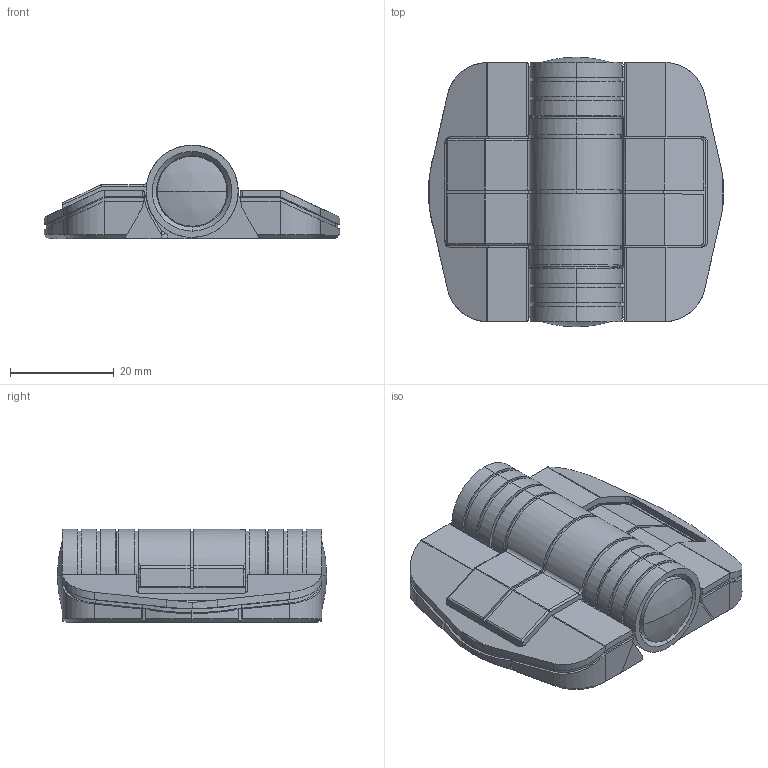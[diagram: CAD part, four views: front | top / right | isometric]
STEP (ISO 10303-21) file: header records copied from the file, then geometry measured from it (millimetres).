
FILE_DESCRIPTION (( 'STEP AP214' ), '1' );
FILE_NAME ('C6DEFAU1028518109967.step', '2005-10-28T09:18:29', ( 'SysAdmin' ), ( 'SolidWorks' ), 'SwSTEP 2.0', 'SolidWorks 2005254', '' );
FILE_SCHEMA (( 'AUTOMOTIVE_DESIGN' ));
Length unit declared in the file: inch
Products named in the file (9): SW3dPS-C6-28_STANDARD STEEL BALL8; SW3dPS-C6-28_End Plug10; SW3dPS-C6-28_RETAINING_TAB10; C6DEFAU1028518109967; SW3dPS-C6-28_Cover16; SW3dPS-C6-28_DETENT_TUBE1; SW3dPS-C6-28_C6_DOUBLE_LEAF_CLF10; SW3dPS-C6-28_C6_SINGLE_LEAF_CLF10; SW3dPS-C6-28_HINGE_SUB_ASSEMBLY9
Assembly tree (11 placements, depth 3):
  C6DEFAU1028518109967
    SW3dPS-C6-28_Cover16  x2
    SW3dPS-C6-28_HINGE_SUB_ASSEMBLY9
      SW3dPS-C6-28_End Plug10  x2
      SW3dPS-C6-28_C6_DOUBLE_LEAF_CLF10
      SW3dPS-C6-28_DETENT_TUBE1
      SW3dPS-C6-28_C6_SINGLE_LEAF_CLF10
      SW3dPS-C6-28_STANDARD STEEL BALL8  x2
      SW3dPS-C6-28_RETAINING_TAB10
Bounding box: 57.04 x 52.02 x 18.05 mm (x, y, z)
Volume: 17164 mm3; surface area: 22325.1 mm2
Topology: 10 solids, 10 shells, 854 faces, 2445 edges, 1560 vertices
Faces by surface type: cylinder 352, plane 341, cone 72, bspline 43, torus 30, sphere 16
Entity records: 30560 total; most frequent: CARTESIAN_POINT 12874, ORIENTED_EDGE 3980, DIRECTION 3260, EDGE_CURVE 1990, VERTEX_POINT 1277, AXIS2_PLACEMENT_3D 1163, VECTOR 934, LINE 934
